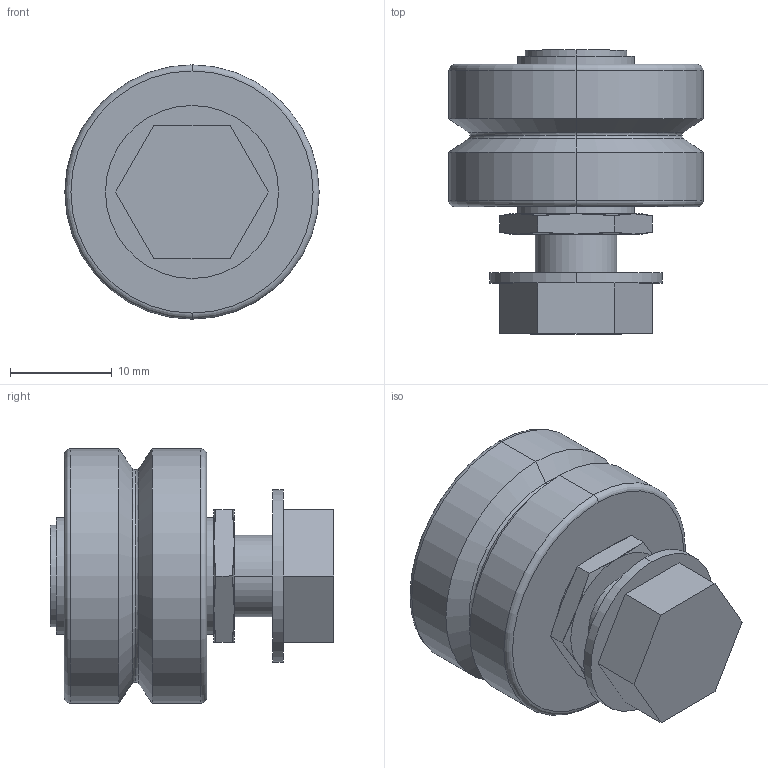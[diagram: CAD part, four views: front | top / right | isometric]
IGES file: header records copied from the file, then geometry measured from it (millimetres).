
Start section: 3D InterOp IGES (Version 21 0 1), Spatial Corp. Copyright (c) 1999-2007.
Global section: file name: RSFJ25CNS.igs; native system: Spatial Corp.; preprocessor: 3D InterOp GENERIC/IGES 3.0; author: Noname; organization: Noname; date: 20220627.163518; units: millimetre
Bounding box: 25 x 27.9 x 25 mm (x, y, z)
Surface area: 5197 mm2 (no closed solid volume)
Topology: 0 solids, 0 shells, 69 faces, 296 edges, 296 vertices
Faces by surface type: revolution 40, extrusion 29
